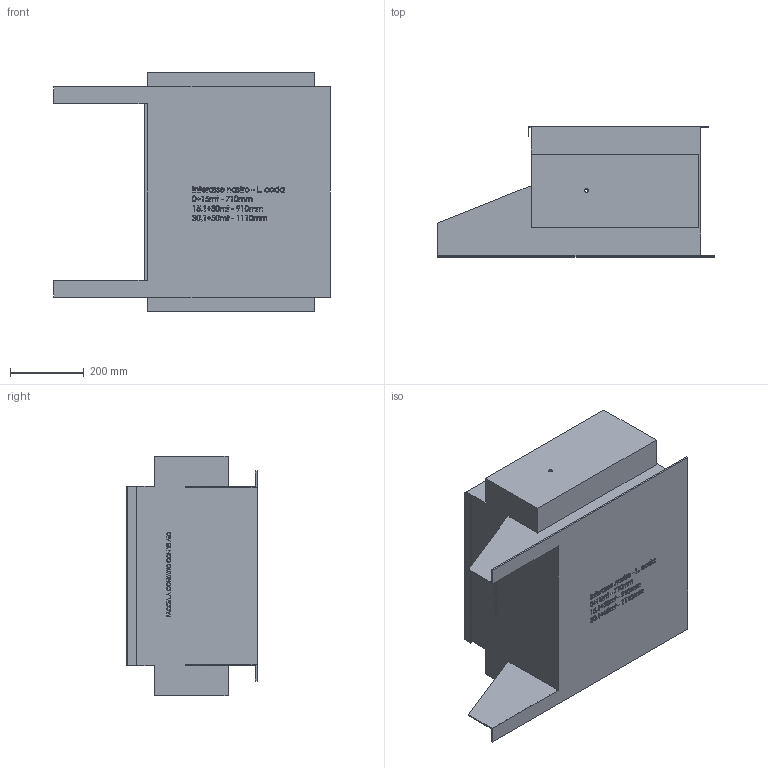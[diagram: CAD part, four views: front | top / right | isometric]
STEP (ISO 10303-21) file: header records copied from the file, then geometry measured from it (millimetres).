
FILE_DESCRIPTION (( 'STEP AP203' ), '1' );
FILE_NAME ('30750.step', '2019-03-14T14:31:23', ( 'PC' ), ( 'Hewlett-Packard Company' ), 'SwSTEP 2.0', 'SolidWorks 2016', '' );
FILE_SCHEMA (( 'CONFIG_CONTROL_DESIGN' ));
Length unit declared in the file: millimetre
Products named in the file (1): 30750
Bounding box: 750 x 353.5 x 650 mm (x, y, z)
Volume: 94528991.8 mm3; surface area: 1717396.4 mm2
Topology: 1 solids, 1 shells, 1110 faces, 2964 edges, 1976 vertices
Faces by surface type: plane 679, bspline 429, cylinder 2
Entity records: 57931 total; most frequent: CARTESIAN_POINT 33072, ORIENTED_EDGE 5928, DIRECTION 3474, EDGE_CURVE 2964, VECTOR 2102, LINE 2102, VERTEX_POINT 1976, EDGE_LOOP 1232
